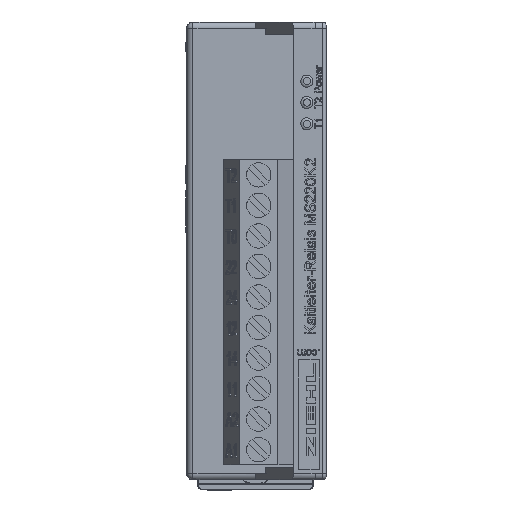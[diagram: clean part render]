
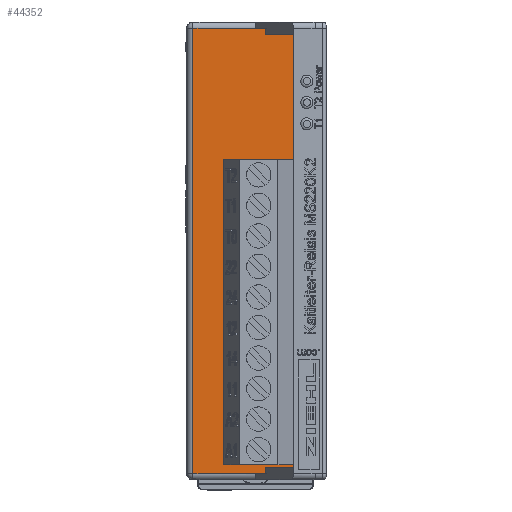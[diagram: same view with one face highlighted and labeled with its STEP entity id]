
A CAD part, left-side view. The second image highlights one B-rep face of the part: STEP entity #44352.
In plain terms, the highlighted planar face has unit normal (-1, 0, 0) as drawn and (1, 0, 0) by its records, which use the part's own axes.
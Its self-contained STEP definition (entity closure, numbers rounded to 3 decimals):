
#1098 = VERTEX_POINT ( 'NONE', #77210 ) ;
#7302 = DIRECTION ( 'NONE',  ( 0., -1., 0. ) ) ;
#8284 = LINE ( 'NONE', #70133, #99722 ) ;
#9258 = ORIENTED_EDGE ( 'NONE', *, *, #78655, .T. ) ;
#11221 = CARTESIAN_POINT ( 'NONE',  ( 30., -14.3, -37.5 ) ) ;
#16773 = CARTESIAN_POINT ( 'NONE',  ( 30., 1.2, -36.5 ) ) ;
#18575 = CARTESIAN_POINT ( 'NONE',  ( 30., 0.2, -36.5 ) ) ;
#20094 = DIRECTION ( 'NONE',  ( 0., 0., 1. ) ) ;
#21162 = LINE ( 'NONE', #86353, #44675 ) ;
#25697 = DIRECTION ( 'NONE',  ( 0., 1., 0. ) ) ;
#26378 = PLANE ( 'NONE',  #95749 ) ;
#27036 = LINE ( 'NONE', #113438, #71348 ) ;
#31074 = ORIENTED_EDGE ( 'NONE', *, *, #66572, .F. ) ;
#31560 = EDGE_CURVE ( 'NONE', #45931, #96844, #48661, .T. ) ;
#32230 = EDGE_CURVE ( 'NONE', #96844, #103177, #8284, .T. ) ;
#32411 = VERTEX_POINT ( 'NONE', #99147 ) ;
#32791 = LINE ( 'NONE', #11221, #77131 ) ;
#32843 = CARTESIAN_POINT ( 'NONE',  ( 30., -16.3, -35.5 ) ) ;
#34165 = EDGE_CURVE ( 'NONE', #1098, #43250, #77130, .T. ) ;
#35256 = DIRECTION ( 'NONE',  ( -1., 0., 0. ) ) ;
#36424 = FACE_OUTER_BOUND ( 'NONE', #71810, .T. ) ;
#39164 = DIRECTION ( 'NONE',  ( 0., 1., 0. ) ) ;
#42188 = CARTESIAN_POINT ( 'NONE',  ( 30., -16.3, 36.5 ) ) ;
#42190 = DIRECTION ( 'NONE',  ( 0., 0., 1. ) ) ;
#43250 = VERTEX_POINT ( 'NONE', #95035 ) ;
#44352 = ADVANCED_FACE ( 'NONE', ( #36424 ), #26378, .F. ) ;
#44675 = VECTOR ( 'NONE', #42190, 1000. ) ;
#45931 = VERTEX_POINT ( 'NONE', #66600 ) ;
#48201 = CARTESIAN_POINT ( 'NONE',  ( 30., -14.3, 36.5 ) ) ;
#48661 = LINE ( 'NONE', #32843, #72157 ) ;
#51898 = ORIENTED_EDGE ( 'NONE', *, *, #81402, .F. ) ;
#53105 = CARTESIAN_POINT ( 'NONE',  ( 30., -16.3, 35.5 ) ) ;
#57242 = VERTEX_POINT ( 'NONE', #66960 ) ;
#64038 = DIRECTION ( 'NONE',  ( 0., 1., 0. ) ) ;
#64715 = ORIENTED_EDGE ( 'NONE', *, *, #70945, .F. ) ;
#66572 = EDGE_CURVE ( 'NONE', #1098, #45931, #32791, .T. ) ;
#66600 = CARTESIAN_POINT ( 'NONE',  ( 30., -14.3, -35.5 ) ) ;
#66960 = CARTESIAN_POINT ( 'NONE',  ( 30., 0.2, 36.5 ) ) ;
#67340 = ORIENTED_EDGE ( 'NONE', *, *, #32230, .F. ) ;
#68500 = VECTOR ( 'NONE', #95226, 1000. ) ;
#70133 = CARTESIAN_POINT ( 'NONE',  ( 30., -16.3, 36.5 ) ) ;
#70168 = ORIENTED_EDGE ( 'NONE', *, *, #31560, .F. ) ;
#70945 = EDGE_CURVE ( 'NONE', #104337, #102328, #112909, .T. ) ;
#71348 = VECTOR ( 'NONE', #7302, 1000. ) ;
#71810 = EDGE_LOOP ( 'NONE', ( #101992, #9258, #64715, #104628, #51898, #67340, #70168, #31074, #111258, #105510 ) ) ;
#72157 = VECTOR ( 'NONE', #94738, 1000. ) ;
#75051 = CARTESIAN_POINT ( 'NONE',  ( 30., -16.3, -35.5 ) ) ;
#75178 = VECTOR ( 'NONE', #39164, 1000. ) ;
#76734 = VECTOR ( 'NONE', #77330, 1000. ) ;
#77130 = LINE ( 'NONE', #108203, #97791 ) ;
#77131 = VECTOR ( 'NONE', #20094, 1000. ) ;
#77210 = CARTESIAN_POINT ( 'NONE',  ( 30., -14.3, -36.5 ) ) ;
#77330 = DIRECTION ( 'NONE',  ( 0., 0., 1. ) ) ;
#78655 = EDGE_CURVE ( 'NONE', #57242, #102328, #27036, .T. ) ;
#79483 = LINE ( 'NONE', #103637, #76734 ) ;
#80713 = LINE ( 'NONE', #83358, #75178 ) ;
#81402 = EDGE_CURVE ( 'NONE', #103177, #32411, #80713, .T. ) ;
#83358 = CARTESIAN_POINT ( 'NONE',  ( 30., -16.3, 35.5 ) ) ;
#86353 = CARTESIAN_POINT ( 'NONE',  ( 30., 0.2, 37.5 ) ) ;
#88410 = EDGE_CURVE ( 'NONE', #32411, #104337, #79483, .T. ) ;
#89197 = VERTEX_POINT ( 'NONE', #18575 ) ;
#92017 = EDGE_CURVE ( 'NONE', #43250, #89197, #105747, .T. ) ;
#94738 = DIRECTION ( 'NONE',  ( 0., -1., 0. ) ) ;
#94967 = CARTESIAN_POINT ( 'NONE',  ( 30., -10.082, 36.5 ) ) ;
#95035 = CARTESIAN_POINT ( 'NONE',  ( 30., -10.082, -36.5 ) ) ;
#95226 = DIRECTION ( 'NONE',  ( 0., 1., 0. ) ) ;
#95749 = AXIS2_PLACEMENT_3D ( 'NONE', #114709, #35256, #97175 ) ;
#96844 = VERTEX_POINT ( 'NONE', #75051 ) ;
#97175 = DIRECTION ( 'NONE',  ( 0., 0., 1. ) ) ;
#97791 = VECTOR ( 'NONE', #64038, 1000. ) ;
#99147 = CARTESIAN_POINT ( 'NONE',  ( 30., -14.3, 35.5 ) ) ;
#99722 = VECTOR ( 'NONE', #105791, 1000. ) ;
#101992 = ORIENTED_EDGE ( 'NONE', *, *, #113743, .T. ) ;
#102328 = VERTEX_POINT ( 'NONE', #94967 ) ;
#103022 = VECTOR ( 'NONE', #25697, 1000. ) ;
#103177 = VERTEX_POINT ( 'NONE', #53105 ) ;
#103637 = CARTESIAN_POINT ( 'NONE',  ( 30., -14.3, 35.5 ) ) ;
#104337 = VERTEX_POINT ( 'NONE', #48201 ) ;
#104628 = ORIENTED_EDGE ( 'NONE', *, *, #88410, .F. ) ;
#105510 = ORIENTED_EDGE ( 'NONE', *, *, #92017, .T. ) ;
#105747 = LINE ( 'NONE', #16773, #103022 ) ;
#105791 = DIRECTION ( 'NONE',  ( 0., 0., 1. ) ) ;
#108203 = CARTESIAN_POINT ( 'NONE',  ( 30., -16.3, -36.5 ) ) ;
#111258 = ORIENTED_EDGE ( 'NONE', *, *, #34165, .T. ) ;
#112909 = LINE ( 'NONE', #42188, #68500 ) ;
#113438 = CARTESIAN_POINT ( 'NONE',  ( 30., 1.2, 36.5 ) ) ;
#113743 = EDGE_CURVE ( 'NONE', #89197, #57242, #21162, .T. ) ;
#114709 = CARTESIAN_POINT ( 'NONE',  ( 30., 1.2, 37.5 ) ) ;
